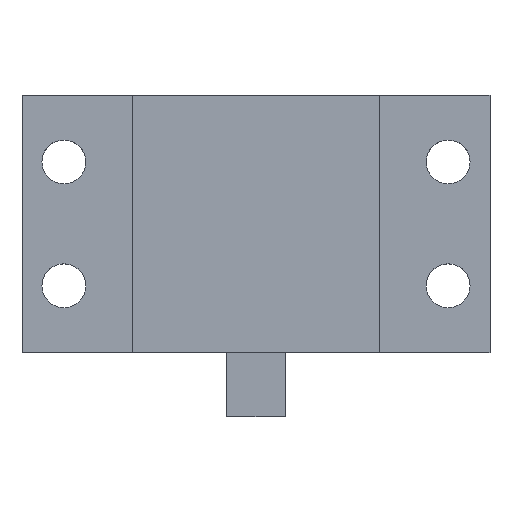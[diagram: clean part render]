
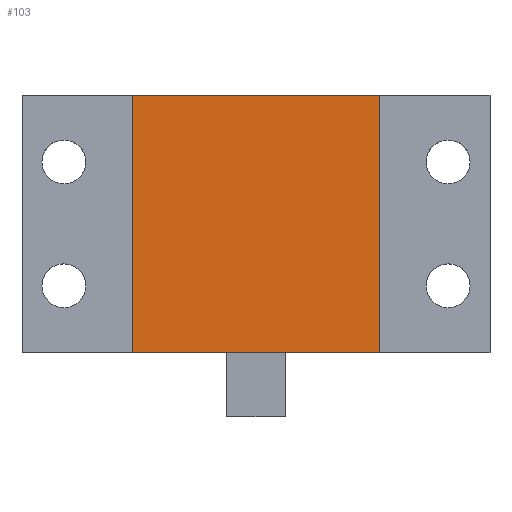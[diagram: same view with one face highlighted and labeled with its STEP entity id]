
A CAD part, top view. The second image highlights one B-rep face of the part: STEP entity #103.
In plain terms, the highlighted planar face has unit normal (0, 0, 1).
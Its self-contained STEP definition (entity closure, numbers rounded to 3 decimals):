
#103=ADVANCED_FACE('',(#266),#268,.T.);
#266=FACE_BOUND('',#267,.T.);
#267=EDGE_LOOP('',(#416,#417,#418,#419));
#268=PLANE('',#269);
#269=AXIS2_PLACEMENT_3D('',#270,#271,#272);
#270=CARTESIAN_POINT('',(0.,0.,10.));
#271=DIRECTION('',(0.,0.,1.));
#272=DIRECTION('',(-1.,0.,0.));
#416=ORIENTED_EDGE('',*,*,#476,.T.);
#417=ORIENTED_EDGE('',*,*,#496,.T.);
#418=ORIENTED_EDGE('',*,*,#497,.T.);
#419=ORIENTED_EDGE('',*,*,#498,.T.);
#476=EDGE_CURVE('',#520,#521,#522,.T.);
#496=EDGE_CURVE('',#521,#556,#557,.T.);
#497=EDGE_CURVE('',#556,#558,#559,.T.);
#498=EDGE_CURVE('',#558,#520,#560,.T.);
#520=VERTEX_POINT('',#596);
#521=VERTEX_POINT('',#597);
#522=LINE('',#598,#599);
#556=VERTEX_POINT('',#672);
#557=LINE('',#673,#674);
#558=VERTEX_POINT('',#676);
#559=LINE('',#677,#678);
#560=LINE('',#680,#681);
#596=CARTESIAN_POINT('',(-12.7,-13.2,10.));
#597=CARTESIAN_POINT('',(12.7,-13.2,10.));
#598=CARTESIAN_POINT('',(-12.7,-13.2,10.));
#599=VECTOR('',#600,1.);
#600=DIRECTION('',(1.,0.,0.));
#672=CARTESIAN_POINT('',(12.7,13.2,10.));
#673=CARTESIAN_POINT('',(12.7,-13.2,10.));
#674=VECTOR('',#675,1.);
#675=DIRECTION('',(0.,1.,0.));
#676=CARTESIAN_POINT('',(-12.7,13.2,10.));
#677=CARTESIAN_POINT('',(12.7,13.2,10.));
#678=VECTOR('',#679,1.);
#679=DIRECTION('',(-1.,0.,0.));
#680=CARTESIAN_POINT('',(-12.7,13.2,10.));
#681=VECTOR('',#682,1.);
#682=DIRECTION('',(0.,-1.,0.));
